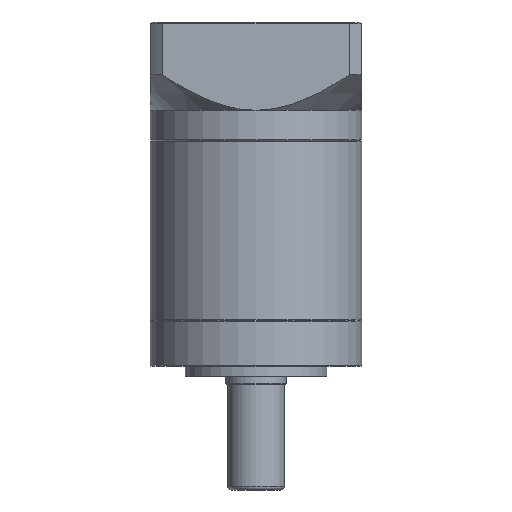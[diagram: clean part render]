
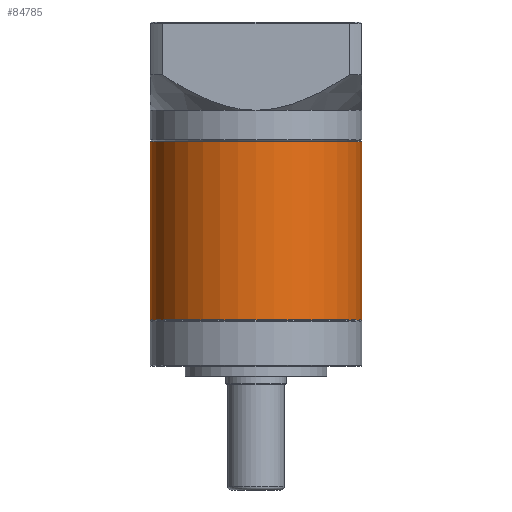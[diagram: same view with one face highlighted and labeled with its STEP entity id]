
A CAD part, front view. The second image highlights one B-rep face of the part: STEP entity #84785.
In plain terms, the highlighted cylindrical face has radius 30 mm (diameter 60 mm), a partial arc.
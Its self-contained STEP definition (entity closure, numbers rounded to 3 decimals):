
#1292 = CARTESIAN_POINT ( 'NONE',  ( -62.512, 25.705, -17.169 ) ) ;
#2024 = FACE_OUTER_BOUND ( 'NONE', #18896, .T. ) ;
#2665 = EDGE_CURVE ( 'NONE', #88768, #91042, #87977, .T. ) ;
#6306 = DIRECTION ( 'NONE',  ( 1., 0., 0. ) ) ;
#15606 = EDGE_CURVE ( 'NONE', #91042, #27024, #100738, .T. ) ;
#16629 = ORIENTED_EDGE ( 'NONE', *, *, #2665, .T. ) ;
#16826 = AXIS2_PLACEMENT_3D ( 'NONE', #34203, #92078, #42509 ) ;
#18113 = LINE ( 'NONE', #77516, #40115 ) ;
#18896 = EDGE_LOOP ( 'NONE', ( #87291, #95431, #16629, #28244 ) ) ;
#19664 = DIRECTION ( 'NONE',  ( 0., 0., -1. ) ) ;
#23666 = CARTESIAN_POINT ( 'NONE',  ( -92.512, 25.705, -17.169 ) ) ;
#23852 = AXIS2_PLACEMENT_3D ( 'NONE', #105565, #55929, #6306 ) ;
#25455 = CIRCLE ( 'NONE', #16826, 30. ) ;
#27024 = VERTEX_POINT ( 'NONE', #100555 ) ;
#28244 = ORIENTED_EDGE ( 'NONE', *, *, #15606, .T. ) ;
#32127 = EDGE_CURVE ( 'NONE', #33995, #88768, #25455, .T. ) ;
#32671 = CARTESIAN_POINT ( 'NONE',  ( -92.512, 25.705, -67.719 ) ) ;
#33995 = VERTEX_POINT ( 'NONE', #59486 ) ;
#34203 = CARTESIAN_POINT ( 'NONE',  ( -62.512, 25.705, -17.419 ) ) ;
#35630 = AXIS2_PLACEMENT_3D ( 'NONE', #1292, #100554, #84168 ) ;
#40115 = VECTOR ( 'NONE', #19664, 1000. ) ;
#42509 = DIRECTION ( 'NONE',  ( 1., 0., 0. ) ) ;
#43928 = VECTOR ( 'NONE', #49018, 1000. ) ;
#49018 = DIRECTION ( 'NONE',  ( 0., 0., -1. ) ) ;
#55929 = DIRECTION ( 'NONE',  ( 0., 0., 1. ) ) ;
#59486 = CARTESIAN_POINT ( 'NONE',  ( -32.512, 25.705, -17.419 ) ) ;
#77516 = CARTESIAN_POINT ( 'NONE',  ( -32.512, 25.705, -17.169 ) ) ;
#77921 = EDGE_CURVE ( 'NONE', #33995, #27024, #18113, .T. ) ;
#79719 = CYLINDRICAL_SURFACE ( 'NONE', #35630, 30. ) ;
#84168 = DIRECTION ( 'NONE',  ( -1., 0., 0. ) ) ;
#84785 = ADVANCED_FACE ( 'NONE', ( #2024 ), #79719, .T. ) ;
#87291 = ORIENTED_EDGE ( 'NONE', *, *, #77921, .F. ) ;
#87977 = LINE ( 'NONE', #23666, #43928 ) ;
#88768 = VERTEX_POINT ( 'NONE', #102393 ) ;
#91042 = VERTEX_POINT ( 'NONE', #32671 ) ;
#92078 = DIRECTION ( 'NONE',  ( 0., 0., -1. ) ) ;
#95431 = ORIENTED_EDGE ( 'NONE', *, *, #32127, .T. ) ;
#100555 = CARTESIAN_POINT ( 'NONE',  ( -32.512, 25.705, -67.719 ) ) ;
#100554 = DIRECTION ( 'NONE',  ( 0., 0., -1. ) ) ;
#100738 = CIRCLE ( 'NONE', #23852, 30. ) ;
#102393 = CARTESIAN_POINT ( 'NONE',  ( -92.512, 25.705, -17.419 ) ) ;
#105565 = CARTESIAN_POINT ( 'NONE',  ( -62.512, 25.705, -67.719 ) ) ;
